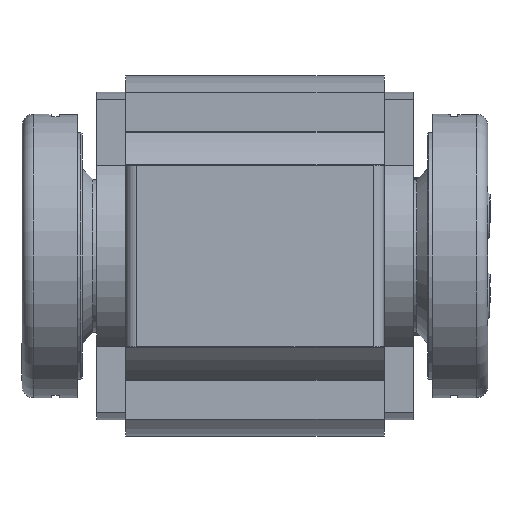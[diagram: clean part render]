
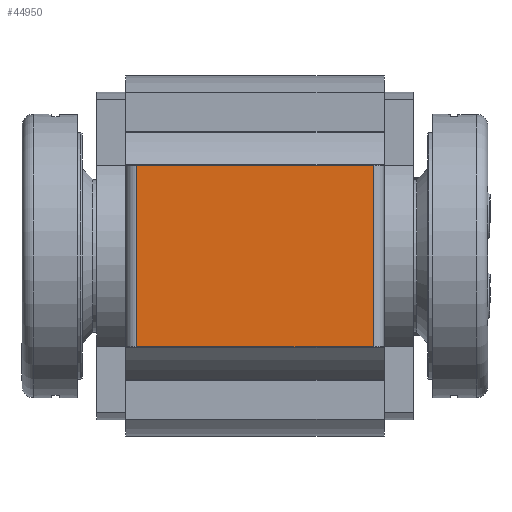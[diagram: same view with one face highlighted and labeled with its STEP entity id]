
A CAD part, front view. The second image highlights one B-rep face of the part: STEP entity #44950.
In plain terms, the highlighted planar face has unit normal (0, -1, 0).
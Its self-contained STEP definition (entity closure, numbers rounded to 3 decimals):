
#1923=PLANE('',#47849);
#3518=FACE_OUTER_BOUND('',#6004,.T.);
#6004=EDGE_LOOP('',(#30734,#30735,#30736,#30737));
#8768=LINE('',#62643,#13136);
#8975=LINE('',#63235,#13343);
#8976=LINE('',#63238,#13344);
#8977=LINE('',#63239,#13345);
#13136=VECTOR('',#51841,10.);
#13343=VECTOR('',#52398,10.);
#13344=VECTOR('',#52401,10.);
#13345=VECTOR('',#52402,10.);
#18803=VERTEX_POINT('',#62633);
#18807=VERTEX_POINT('',#62641);
#19017=VERTEX_POINT('',#63233);
#19018=VERTEX_POINT('',#63237);
#23221=EDGE_CURVE('',#18803,#18807,#8768,.T.);
#23522=EDGE_CURVE('',#19017,#18807,#8975,.T.);
#23523=EDGE_CURVE('',#19017,#19018,#8976,.T.);
#23524=EDGE_CURVE('',#18803,#19018,#8977,.T.);
#30734=ORIENTED_EDGE('',*,*,#23522,.F.);
#30735=ORIENTED_EDGE('',*,*,#23523,.T.);
#30736=ORIENTED_EDGE('',*,*,#23524,.F.);
#30737=ORIENTED_EDGE('',*,*,#23221,.T.);
#44950=ADVANCED_FACE('',(#3518),#1923,.T.);
#47849=AXIS2_PLACEMENT_3D('',#63236,#52399,#52400);
#51841=DIRECTION('',(-1.,0.,0.));
#52398=DIRECTION('',(0.,0.,1.));
#52399=DIRECTION('center_axis',(0.,-1.,0.));
#52400=DIRECTION('ref_axis',(0.,0.,
1.));
#52401=DIRECTION('',(1.,0.,0.));
#52402=DIRECTION('',(0.,0.,-1.));
#62633=CARTESIAN_POINT('',(32.5,-53.,25.));
#62641=CARTESIAN_POINT('',(-32.5,-53.,25.));
#62643=CARTESIAN_POINT('',(0.,-53.,25.));
#63233=CARTESIAN_POINT('',(-32.5,-53.,-25.));
#63235=CARTESIAN_POINT('',(-32.5,-53.,-25.427));
#63236=CARTESIAN_POINT('Origin',(0.,-53.,-25.));
#63237=CARTESIAN_POINT('',(32.5,-53.,-25.));
#63238=CARTESIAN_POINT('',(0.,-53.,-25.));
#63239=CARTESIAN_POINT('',(32.5,-53.,-25.427));
